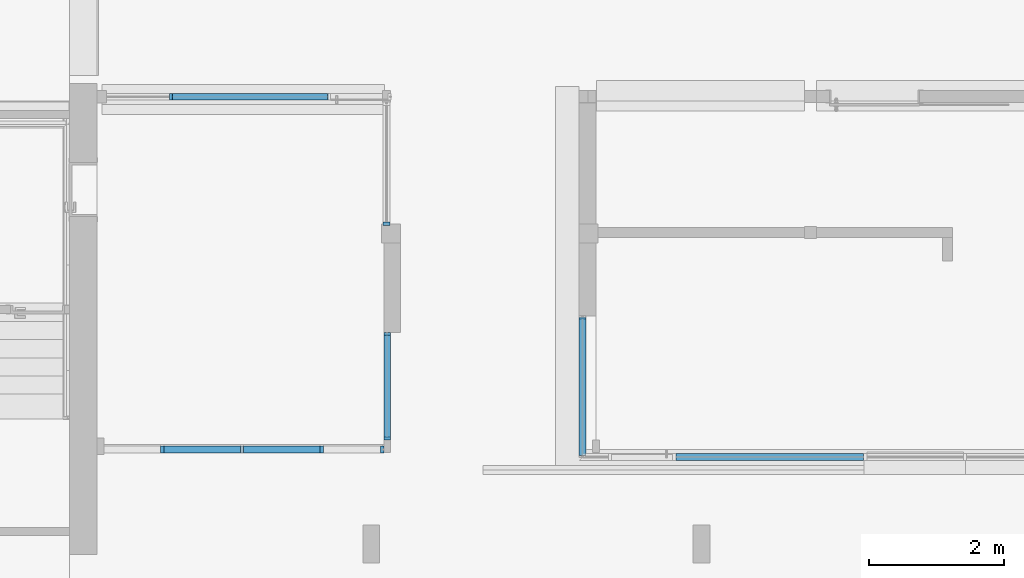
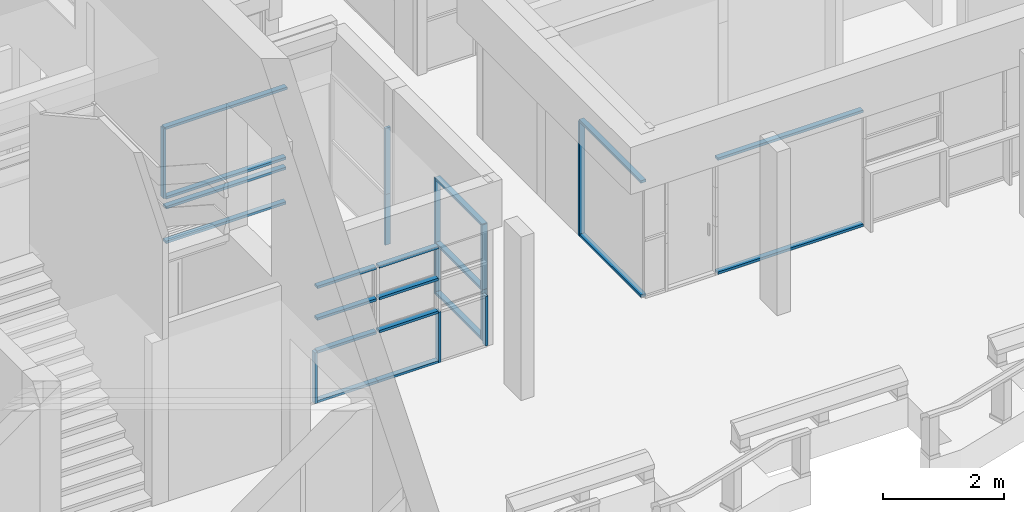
# One storey, part 3 of 117: 30 members, 6 elements without a shape of their own.
"""IFC4 building model written with IfcOpenShell, lengths in metres."""

from ifc_helpers import new_model, entity, si_unit, converted_unit, derived_unit, direction, frame, origin, place, context, subcontext, project, spatial, indexed_curve, outline, extrude, source, transform, mapped, material, type_object, type_shapes, element, aggregate, save


model = new_model("IFC4")

# Units and contexts
model_context = context("Model", 3, precision=1e-05, world=origin(), true_north=direction((6.123031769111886e-17, 1.0)))
body_context = subcontext(model_context, "Body", "Model", "MODEL_VIEW")
ifc_project = project(units=[si_unit("LENGTHUNIT", "METRE"), si_unit("AREAUNIT", "SQUARE_METRE"), si_unit("VOLUMEUNIT", "CUBIC_METRE"), converted_unit("PLANEANGLEUNIT", "DEGREE", entity("IfcRatioMeasure", 0.017453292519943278), si_unit("PLANEANGLEUNIT", "RADIAN"), dimensions=[0, 0, 0, 0, 0, 0, 0]), si_unit("MASSUNIT", "GRAM", prefix="KILO"), derived_unit("MASSDENSITYUNIT", [(si_unit("MASSUNIT", "GRAM", prefix="KILO"), 1), (si_unit("LENGTHUNIT", "METRE"), -3)]), derived_unit("MOMENTOFINERTIAUNIT", [(si_unit("LENGTHUNIT", "METRE"), 4)]), si_unit("TIMEUNIT", "SECOND"), si_unit("FREQUENCYUNIT", "HERTZ"), si_unit("THERMODYNAMICTEMPERATUREUNIT", "DEGREE_CELSIUS"), derived_unit("THERMALTRANSMITTANCEUNIT", [(si_unit("MASSUNIT", "GRAM", prefix="KILO"), 1), (si_unit("THERMODYNAMICTEMPERATUREUNIT", "KELVIN"), -1), (si_unit("TIMEUNIT", "SECOND"), -3)]), derived_unit("VOLUMETRICFLOWRATEUNIT", [(si_unit("LENGTHUNIT", "METRE"), 3), (si_unit("TIMEUNIT", "SECOND"), -1)]), derived_unit("MASSFLOWRATEUNIT", [(si_unit("MASSUNIT", "GRAM", prefix="KILO"), 1), (si_unit("TIMEUNIT", "SECOND"), -1)]), derived_unit("ROTATIONALFREQUENCYUNIT", [(si_unit("TIMEUNIT", "SECOND"), -1)]), si_unit("ELECTRICCURRENTUNIT", "AMPERE"), si_unit("ELECTRICVOLTAGEUNIT", "VOLT"), si_unit("POWERUNIT", "WATT"), si_unit("FORCEUNIT", "NEWTON", prefix="KILO"), si_unit("ILLUMINANCEUNIT", "LUX"), si_unit("LUMINOUSFLUXUNIT", "LUMEN"), si_unit("LUMINOUSINTENSITYUNIT", "CANDELA"), derived_unit("USERDEFINED", [(si_unit("MASSUNIT", "GRAM", prefix="KILO"), -1), (si_unit("LENGTHUNIT", "METRE"), -2), (si_unit("TIMEUNIT", "SECOND"), 3), (si_unit("LUMINOUSFLUXUNIT", "LUMEN"), 1)]), derived_unit("SOUNDPOWERUNIT", [(si_unit("MASSUNIT", "GRAM", prefix="KILO"), 1), (si_unit("LENGTHUNIT", "METRE"), 2), (si_unit("TIMEUNIT", "SECOND"), -3)]), derived_unit("SOUNDPRESSUREUNIT", [(si_unit("MASSUNIT", "GRAM", prefix="KILO"), 1), (si_unit("LENGTHUNIT", "METRE"), -1), (si_unit("TIMEUNIT", "SECOND"), -2)]), derived_unit("LINEARVELOCITYUNIT", [(si_unit("LENGTHUNIT", "METRE"), 1), (si_unit("TIMEUNIT", "SECOND"), -1)]), si_unit("PRESSUREUNIT", "PASCAL"), derived_unit("USERDEFINED", [(si_unit("LENGTHUNIT", "METRE"), -2), (si_unit("MASSUNIT", "GRAM", prefix="KILO"), 1), (si_unit("TIMEUNIT", "SECOND"), -2)]), derived_unit("LINEARFORCEUNIT", [(si_unit("MASSUNIT", "GRAM", prefix="KILO"), 1), (si_unit("LENGTHUNIT", "METRE"), 1), (si_unit("TIMEUNIT", "SECOND"), -2), (si_unit("LENGTHUNIT", "METRE"), -1)]), derived_unit("PLANARFORCEUNIT", [(si_unit("MASSUNIT", "GRAM", prefix="KILO"), 1), (si_unit("LENGTHUNIT", "METRE"), 1), (si_unit("TIMEUNIT", "SECOND"), -2), (si_unit("LENGTHUNIT", "METRE"), -2)])], contexts=[model_context])

# Site, building, storey
site_placement = place(None, origin())
site = spatial("IfcSite", under=ifc_project, at=site_placement, Name="Superficie", CompositionType="ELEMENT")
building_placement = place(site_placement, origin())
building = spatial("IfcBuilding", under=site, at=building_placement, CompositionType="ELEMENT")
storey_placement = place(building_placement, origin())
storey = spatial("IfcBuildingStorey", under=building, at=storey_placement, Name="Nivel 0", CompositionType="ELEMENT", Elevation=0.0)

# Curtain wall, members
curtain_wall_type = type_object("IfcCurtainWallType", Name="Muro cortina:Muro cortina - simple", PredefinedType="NOTDEFINED")
curtain_wall_1_placement = place(storey_placement, origin())
curtain_wall_1 = element("IfcCurtainWall", 1, at=curtain_wall_1_placement, inside=storey, type_object=curtain_wall_type, Name="Muro cortina:Muro cortina - simple", ObjectType="Muro cortina:Muro cortina - simple", PredefinedType="NOTDEFINED")
ifc_material = material(Name="<Unnamed>")
member_type_1 = type_object("IfcMemberType", Name="Montante rectangular:Montante rectangular - 5 x 10 cm", PredefinedType="MULLION", material=ifc_material)
shared_shape_1 = source(origin(), body_context, "Body", "SweptSolid", [
    extrude(outline(indexed_curve([(-0.05, -0.025), (0.05, -0.025), (0.05, 0.025), (-0.05, 0.025), (-0.05, -0.025)], self_intersect=False)), frame((0.0, 0.0, -2.0250000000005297), z_axis=(0.0, 0.0, 1.0), x_axis=(0.0, -1.0, 0.0)), (0.0, 0.0, 1.0), 2.0250000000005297),
])
type_shapes(member_type_1, [shared_shape_1])
member_1_placement = place(curtain_wall_1_placement, frame((-15.448200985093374, -1.7441707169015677, 0.019999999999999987), z_axis=(0.0, -1.0, 0.0), x_axis=(0.0, 0.0, 1.0)))
member_1 = element("IfcMember", 2, at=member_1_placement, type_object=member_type_1, material=ifc_material, Name="Montante rectangular:Montante rectangular - 5 x 10 cm", ObjectType="Montante rectangular:Montante rectangular - 5 x 10 cm", PredefinedType="MULLION", context=body_context, shape_type="MappedRepresentation", body=[
    mapped(shared_shape_1, transform((0.0, 0.0, 0.0), scale=1.0)),
])
member_type_2 = type_object("IfcMemberType", Name="Montante rectangular:Montante rectangular - 5 x 10 cm", PredefinedType="MULLION", material=ifc_material)
shared_shape_2 = source(origin(), body_context, "Body", "SweptSolid", [
    extrude(outline(indexed_curve([(-0.05, -0.025), (0.05, -0.025), (0.05, 0.025), (-0.05, 0.025), (-0.05, -0.025)], self_intersect=False)), frame((-0.025, 0.0, -2.05000000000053), z_axis=(0.0, 0.0, 1.0), x_axis=(0.0, -1.0, 0.0)), (0.0, 0.0, 1.0), 2.05000000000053),
])
type_shapes(member_type_2, [shared_shape_2])
member_2_placement = place(curtain_wall_1_placement, frame((-15.448200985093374, -1.7441707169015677, 2.35), z_axis=(0.0, -1.0, 0.0), x_axis=(0.0, 0.0, 1.0)))
member_2 = element("IfcMember", 3, at=member_2_placement, type_object=member_type_2, material=ifc_material, Name="Montante rectangular:Montante rectangular - 5 x 10 cm", ObjectType="Montante rectangular:Montante rectangular - 5 x 10 cm", PredefinedType="MULLION", context=body_context, shape_type="MappedRepresentation", body=[
    mapped(shared_shape_2, transform((0.0, 0.0, 0.0), scale=1.0)),
])
member_type_3 = type_object("IfcMemberType", Name="Montante rectangular:Montante rectangular - 5 x 10 cm", PredefinedType="MULLION", material=ifc_material)
shared_shape_3 = source(origin(), body_context, "Body", "SweptSolid", [
    extrude(outline(indexed_curve([(-0.05, -0.025), (0.05, -0.025), (0.05, 0.025), (-0.05, 0.025), (-0.05, -0.025)], self_intersect=False)), frame((0.0, 0.0, -2.315), z_axis=(0.0, 0.0, 1.0), x_axis=(0.0, -1.0, 0.0)), (0.0, 0.0, 1.0), 2.315),
])
type_shapes(member_type_3, [shared_shape_3])
member_3_placement = place(curtain_wall_1_placement, frame((-15.44820098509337, 0.30582928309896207, -0.005000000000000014), z_axis=(0.0, 0.0, -1.0), x_axis=(0.0, -1.0, 0.0)))
member_3 = element("IfcMember", 4, at=member_3_placement, type_object=member_type_3, material=ifc_material, Name="Montante rectangular:Montante rectangular - 5 x 10 cm", ObjectType="Montante rectangular:Montante rectangular - 5 x 10 cm", PredefinedType="MULLION", context=body_context, shape_type="MappedRepresentation", body=[
    mapped(shared_shape_3, transform((0.0, 0.0, 0.0), scale=1.0)),
])
aggregate(curtain_wall_1, [member_1, member_2, member_3])

curtain_wall_2_placement = place(storey_placement, origin())
curtain_wall_2 = element("IfcCurtainWall", 5, at=curtain_wall_2_placement, inside=storey, type_object=curtain_wall_type, Name="Muro cortina:Muro cortina - simple", ObjectType="Muro cortina:Muro cortina - simple", PredefinedType="NOTDEFINED")
member_type_4 = type_object("IfcMemberType", Name="Montante rectangular:Montante rectangular - 5 x 10 cm", PredefinedType="MULLION", material=ifc_material)
shared_shape_4 = source(origin(), body_context, "Body", "SweptSolid", [
    extrude(outline(indexed_curve([(-0.05, -0.025), (0.05, -0.025), (0.05, 0.025), (-0.05, 0.025), (-0.05, -0.025)], self_intersect=False)), frame((-0.025, 0.0, -1.0), z_axis=(0.0, 0.0, 1.0), x_axis=(0.0, -1.0, 0.0)), (0.0, 0.0, 1.0), 1.0),
])
type_shapes(member_type_4, [shared_shape_4])
member_4_placement = place(curtain_wall_2_placement, frame((-18.39139536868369, -1.65417071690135, 1.0200000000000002)))
member_4 = element("IfcMember", 6, at=member_4_placement, type_object=member_type_4, material=ifc_material, Name="Montante rectangular:Montante rectangular - 5 x 10 cm", ObjectType="Montante rectangular:Montante rectangular - 5 x 10 cm", PredefinedType="MULLION", context=body_context, shape_type="MappedRepresentation", body=[
    mapped(shared_shape_4, transform((0.0, 0.0, 0.0), scale=1.0)),
])
member_type_5 = type_object("IfcMemberType", Name="Montante rectangular:Montante rectangular - 5 x 10 cm", PredefinedType="MULLION", material=ifc_material)
shared_shape_5 = source(origin(), body_context, "Body", "SweptSolid", [
    extrude(outline(indexed_curve([(-0.05, -0.025), (0.05, -0.025), (0.05, 0.025), (-0.05, 0.025), (-0.05, -0.025)], self_intersect=False)), frame((-0.025, 0.0, -1.1300000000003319), z_axis=(0.0, 0.0, 1.0), x_axis=(0.0, -1.0, 0.0)), (0.0, 0.0, 1.0), 1.1300000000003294),
])
type_shapes(member_type_5, [shared_shape_5])
member_5_placement = place(curtain_wall_2_placement, frame((-21.64820098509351, -1.6541707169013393, 2.35), z_axis=(-1.0, 0.0, 0.0), x_axis=(0.0, 0.0, 1.0)))
member_5 = element("IfcMember", 7, at=member_5_placement, type_object=member_type_5, material=ifc_material, Name="Montante rectangular:Montante rectangular - 5 x 10 cm", ObjectType="Montante rectangular:Montante rectangular - 5 x 10 cm", PredefinedType="MULLION", context=body_context, shape_type="MappedRepresentation", body=[
    mapped(shared_shape_5, transform((0.0, 0.0, 0.0), scale=1.0)),
])
member_6_placement = place(curtain_wall_2_placement, frame((-20.46820098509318, -1.654170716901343, 2.35), z_axis=(-1.0, 0.0, 0.0), x_axis=(0.0, 0.0, 1.0)))
member_6 = element("IfcMember", 8, at=member_6_placement, type_object=member_type_5, material=ifc_material, Name="Montante rectangular:Montante rectangular - 5 x 10 cm", ObjectType="Montante rectangular:Montante rectangular - 5 x 10 cm", PredefinedType="MULLION", context=body_context, shape_type="MappedRepresentation", body=[
    mapped(shared_shape_5, transform((0.0, 0.0, 0.0), scale=1.0)),
])
member_type_6 = type_object("IfcMemberType", Name="Montante rectangular:Montante rectangular - 5 x 10 cm", PredefinedType="MULLION", material=ifc_material)
shared_shape_6 = source(origin(), body_context, "Body", "SweptSolid", [
    extrude(outline(indexed_curve([(-0.05, -0.025), (0.05, -0.025), (0.05, 0.025), (-0.05, 0.025), (-0.05, -0.025)], self_intersect=False)), frame((0.0, 0.0, -1.1550000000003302), z_axis=(0.0, 0.0, 1.0), x_axis=(0.0, -1.0, 0.0)), (0.0, 0.0, 1.0), 1.1550000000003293),
])
type_shapes(member_type_6, [shared_shape_6])
member_7_placement = place(curtain_wall_2_placement, frame((-20.49320098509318, -1.654170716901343, 0.019999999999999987), z_axis=(-1.0, 0.0, 0.0), x_axis=(0.0, 0.0, 1.0)))
member_7 = element("IfcMember", 9, at=member_7_placement, type_object=member_type_6, material=ifc_material, Name="Montante rectangular:Montante rectangular - 5 x 10 cm", ObjectType="Montante rectangular:Montante rectangular - 5 x 10 cm", PredefinedType="MULLION", context=body_context, shape_type="MappedRepresentation", body=[
    mapped(shared_shape_6, transform((0.0, 0.0, 0.0), scale=1.0)),
])
member_type_7 = type_object("IfcMemberType", Name="Montante rectangular:Montante rectangular - 5 x 10 cm", PredefinedType="MULLION", material=ifc_material)
shared_shape_7 = source(origin(), body_context, "Body", "SweptSolid", [
    extrude(outline(indexed_curve([(-0.05, -0.025), (0.05, -0.025), (0.05, 0.025), (-0.05, 0.025), (-0.05, -0.025)], self_intersect=False)), frame((0.0, 0.0, -1.1300000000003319), z_axis=(0.0, 0.0, 1.0), x_axis=(0.0, -1.0, 0.0)), (0.0, 0.0, 1.0), 1.1300000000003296),
])
type_shapes(member_type_7, [shared_shape_7])
member_8_placement = place(curtain_wall_2_placement, frame((-20.46820098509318, -1.654170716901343, 1.0200000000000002), z_axis=(-1.0, 0.0, 0.0), x_axis=(0.0, 0.0, 1.0)))
member_8 = element("IfcMember", 10, at=member_8_placement, type_object=member_type_7, material=ifc_material, Name="Montante rectangular:Montante rectangular - 5 x 10 cm", ObjectType="Montante rectangular:Montante rectangular - 5 x 10 cm", PredefinedType="MULLION", context=body_context, shape_type="MappedRepresentation", body=[
    mapped(shared_shape_7, transform((0.0, 0.0, 0.0), scale=1.0)),
])
member_9_placement = place(curtain_wall_2_placement, frame((-20.46820098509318, -1.654170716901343, 1.685), z_axis=(-1.0, 0.0, 0.0), x_axis=(0.0, 0.0, 1.0)))
member_9 = element("IfcMember", 11, at=member_9_placement, type_object=member_type_7, material=ifc_material, Name="Montante rectangular:Montante rectangular - 5 x 10 cm", ObjectType="Montante rectangular:Montante rectangular - 5 x 10 cm", PredefinedType="MULLION", context=body_context, shape_type="MappedRepresentation", body=[
    mapped(shared_shape_7, transform((0.0, 0.0, 0.0), scale=1.0)),
])
member_10_placement = place(curtain_wall_2_placement, frame((-21.64820098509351, -1.6541707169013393, 1.0200000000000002), z_axis=(-1.0, 0.0, 0.0), x_axis=(0.0, 0.0, 1.0)))
member_10 = element("IfcMember", 12, at=member_10_placement, type_object=member_type_7, material=ifc_material, Name="Montante rectangular:Montante rectangular - 5 x 10 cm", ObjectType="Montante rectangular:Montante rectangular - 5 x 10 cm", PredefinedType="MULLION", context=body_context, shape_type="MappedRepresentation", body=[
    mapped(shared_shape_7, transform((0.0, 0.0, 0.0), scale=1.0)),
])
member_11_placement = place(curtain_wall_2_placement, frame((-21.64820098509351, -1.6541707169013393, 1.685), z_axis=(-1.0, 0.0, 0.0), x_axis=(0.0, 0.0, 1.0)))
member_11 = element("IfcMember", 13, at=member_11_placement, type_object=member_type_7, material=ifc_material, Name="Montante rectangular:Montante rectangular - 5 x 10 cm", ObjectType="Montante rectangular:Montante rectangular - 5 x 10 cm", PredefinedType="MULLION", context=body_context, shape_type="MappedRepresentation", body=[
    mapped(shared_shape_7, transform((0.0, 0.0, 0.0), scale=1.0)),
])
member_type_8 = type_object("IfcMemberType", Name="Montante rectangular:Montante rectangular - 5 x 10 cm", PredefinedType="MULLION", material=ifc_material)
shared_shape_8 = source(origin(), body_context, "Body", "SweptSolid", [
    extrude(outline(indexed_curve([(-0.05, -0.025), (0.05, -0.025), (0.05, 0.025), (-0.05, 0.025), (-0.05, -0.025)], self_intersect=False)), frame((0.0, 0.0, -1.0250000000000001), z_axis=(0.0, 0.0, 1.0), x_axis=(0.0, -1.0, 0.0)), (0.0, 0.0, 1.0), 1.0250000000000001),
])
type_shapes(member_type_8, [shared_shape_8])
member_12_placement = place(curtain_wall_2_placement, frame((-21.67320098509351, -1.6541707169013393, -0.005000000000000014), z_axis=(0.0, 0.0, -1.0), x_axis=(-1.0, 0.0, 0.0)))
member_12 = element("IfcMember", 14, at=member_12_placement, type_object=member_type_8, material=ifc_material, Name="Montante rectangular:Montante rectangular - 5 x 10 cm", ObjectType="Montante rectangular:Montante rectangular - 5 x 10 cm", PredefinedType="MULLION", context=body_context, shape_type="MappedRepresentation", body=[
    mapped(shared_shape_8, transform((0.0, 0.0, 0.0), scale=1.0)),
])
member_13_placement = place(curtain_wall_2_placement, frame((-19.31320098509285, -1.6541707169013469, -0.005000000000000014), z_axis=(0.0, 0.0, -1.0), x_axis=(-1.0, 0.0, 0.0)))
member_13 = element("IfcMember", 15, at=member_13_placement, type_object=member_type_8, material=ifc_material, Name="Montante rectangular:Montante rectangular - 5 x 10 cm", ObjectType="Montante rectangular:Montante rectangular - 5 x 10 cm", PredefinedType="MULLION", context=body_context, shape_type="MappedRepresentation", body=[
    mapped(shared_shape_8, transform((0.0, 0.0, 0.0), scale=1.0)),
])

# Curtain wall, member
curtain_wall_3_placement = place(storey_placement, origin())
curtain_wall_3 = element("IfcCurtainWall", 16, at=curtain_wall_3_placement, inside=storey, type_object=curtain_wall_type, Name="Muro cortina:Muro cortina - simple", ObjectType="Muro cortina:Muro cortina - simple", PredefinedType="NOTDEFINED")
member_14_placement = place(curtain_wall_3_placement, frame((-18.34320098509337, 0.0571120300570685, -0.005000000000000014), z_axis=(0.0, 0.0, -1.0), x_axis=(0.0, 1.0, 0.0)))
member_14 = element("IfcMember", 17, at=member_14_placement, type_object=member_type_8, material=ifc_material, Name="Montante rectangular:Montante rectangular - 5 x 10 cm", ObjectType="Montante rectangular:Montante rectangular - 5 x 10 cm", PredefinedType="MULLION", context=body_context, shape_type="MappedRepresentation", body=[
    mapped(shared_shape_8, transform((0.0, 0.0, 0.0), scale=1.0)),
])

curtain_wall_4_placement = place(storey_placement, origin())
curtain_wall_4 = element("IfcCurtainWall", 18, at=curtain_wall_4_placement, inside=storey, type_object=curtain_wall_type, Name="Muro cortina:Muro cortina - simple", ObjectType="Muro cortina:Muro cortina - simple", PredefinedType="NOTDEFINED")
member_15_placement = place(curtain_wall_4_placement, frame((-18.353200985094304, 1.6928457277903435, -0.004999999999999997), z_axis=(0.0, 0.0, -1.0), x_axis=(0.0, -1.0, 0.0)))
member_15 = element("IfcMember", 19, at=member_15_placement, type_object=member_type_8, material=ifc_material, Name="Montante rectangular:Montante rectangular - 5 x 10 cm", ObjectType="Montante rectangular:Montante rectangular - 5 x 10 cm", PredefinedType="MULLION", context=body_context, shape_type="MappedRepresentation", body=[
    mapped(shared_shape_8, transform((0.0, 0.0, 0.0), scale=1.0)),
])

# Member
member_type_9 = type_object("IfcMemberType", Name="Montante rectangular:Montante rectangular - 5 x 10 cm", PredefinedType="MULLION", material=ifc_material)
shared_shape_9 = source(origin(), body_context, "Body", "SweptSolid", [
    extrude(outline(indexed_curve([(-0.05, -0.025), (0.05, -0.025), (0.05, 0.025), (-0.05, 0.025), (-0.05, -0.025)], self_intersect=False)), frame((0.0, 0.0, -1.1550000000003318), z_axis=(0.0, 0.0, 1.0), x_axis=(0.0, -1.0, 0.0)), (0.0, 0.0, 1.0), 1.1550000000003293),
])
type_shapes(member_type_9, [shared_shape_9])
member_16_placement = place(curtain_wall_2_placement, frame((-21.64820098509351, -1.6541707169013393, 0.019999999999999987), z_axis=(-1.0, 0.0, 0.0), x_axis=(0.0, 0.0, 1.0)))
member_16 = element("IfcMember", 20, at=member_16_placement, type_object=member_type_9, material=ifc_material, Name="Montante rectangular:Montante rectangular - 5 x 10 cm", ObjectType="Montante rectangular:Montante rectangular - 5 x 10 cm", PredefinedType="MULLION", context=body_context, shape_type="MappedRepresentation", body=[
    mapped(shared_shape_9, transform((0.0, 0.0, 0.0), scale=1.0)),
])

aggregate(curtain_wall_2, [member_4, member_5, member_7, member_8, member_12, member_13, member_9, member_6, member_16, member_10, member_11])

member_type_10 = type_object("IfcMemberType", Name="Montante rectangular:Montante rectangular - 5 x 10 cm", PredefinedType="MULLION", material=ifc_material)
shared_shape_10 = source(origin(), body_context, "Body", "SweptSolid", [
    extrude(outline(indexed_curve([(-0.05, -0.025), (0.05, -0.025), (0.05, 0.025), (-0.05, 0.025), (-0.05, -0.025)], self_intersect=False)), frame((-0.025, 0.0, -1.5712827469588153), z_axis=(0.0, 0.0, 1.0), x_axis=(0.0, -1.0, 0.0)), (0.0, 0.0, 1.0), 1.5712827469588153),
])
type_shapes(member_type_10, [shared_shape_10])
member_17_placement = place(curtain_wall_3_placement, frame((-18.34320098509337, 0.0571120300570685, 2.3499999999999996), z_axis=(0.0, 1.0, 0.0), x_axis=(0.0, 0.0, 1.0)))
member_17 = element("IfcMember", 21, at=member_17_placement, type_object=member_type_10, material=ifc_material, Name="Montante rectangular:Montante rectangular - 5 x 10 cm", ObjectType="Montante rectangular:Montante rectangular - 5 x 10 cm", PredefinedType="MULLION", context=body_context, shape_type="MappedRepresentation", body=[
    mapped(shared_shape_10, transform((0.0, 0.0, 0.0), scale=1.0)),
])

member_type_11 = type_object("IfcMemberType", Name="Montante rectangular:Montante rectangular - 5 x 10 cm", PredefinedType="MULLION", material=ifc_material)
shared_shape_11 = source(origin(), body_context, "Body", "SweptSolid", [
    extrude(outline(indexed_curve([(-0.05, -0.025), (0.05, -0.025), (0.05, 0.025), (-0.05, 0.025), (-0.05, -0.025)], self_intersect=False)), frame((-0.025, 0.0, -1.31), z_axis=(0.0, 0.0, 1.0), x_axis=(0.0, -1.0, 0.0)), (0.0, 0.0, 1.0), 1.31),
])
type_shapes(member_type_11, [shared_shape_11])
member_18_placement = place(curtain_wall_3_placement, frame((-18.343200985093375, -1.514170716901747, 2.33), z_axis=(0.0, 0.0, 1.0), x_axis=(0.0, -1.0, 0.0)))
member_18 = element("IfcMember", 22, at=member_18_placement, type_object=member_type_11, material=ifc_material, Name="Montante rectangular:Montante rectangular - 5 x 10 cm", ObjectType="Montante rectangular:Montante rectangular - 5 x 10 cm", PredefinedType="MULLION", context=body_context, shape_type="MappedRepresentation", body=[
    mapped(shared_shape_11, transform((0.0, 0.0, 0.0), scale=1.0)),
])

member_type_12 = type_object("IfcMemberType", Name="Montante rectangular:Montante rectangular - 5 x 10 cm", PredefinedType="MULLION", material=ifc_material)
shared_shape_12 = source(origin(), body_context, "Body", "SweptSolid", [
    extrude(outline(indexed_curve([(-0.05, -0.025), (0.05, -0.025), (0.05, 0.025), (-0.05, 0.025), (-0.05, -0.025)], self_intersect=False)), frame((-0.025, 0.0, -1.0250000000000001), z_axis=(0.0, 0.0, 1.0), x_axis=(0.0, -1.0, 0.0)), (0.0, 0.0, 1.0), 1.0250000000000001),
])
type_shapes(member_type_12, [shared_shape_12])
member_19_placement = place(curtain_wall_3_placement, frame((-18.343200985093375, -1.514170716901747, 1.0200000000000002), z_axis=(0.0, 0.0, 1.0), x_axis=(0.0, -1.0, 0.0)))
member_19 = element("IfcMember", 23, at=member_19_placement, type_object=member_type_12, material=ifc_material, Name="Montante rectangular:Montante rectangular - 5 x 10 cm", ObjectType="Montante rectangular:Montante rectangular - 5 x 10 cm", PredefinedType="MULLION", context=body_context, shape_type="MappedRepresentation", body=[
    mapped(shared_shape_12, transform((0.0, 0.0, 0.0), scale=1.0)),
])

member_type_13 = type_object("IfcMemberType", Name="Montante rectangular:Montante rectangular - 5 x 10 cm", PredefinedType="MULLION", material=ifc_material)
shared_shape_13 = source(origin(), body_context, "Body", "SweptSolid", [
    extrude(outline(indexed_curve([(-0.05, -0.025), (0.05, -0.025), (0.05, 0.025), (-0.05, 0.025), (-0.05, -0.025)], self_intersect=False)), frame((0.0, 0.0, -1.3099999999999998), z_axis=(0.0, 0.0, 1.0), x_axis=(0.0, -1.0, 0.0)), (0.0, 0.0, 1.0), 1.3099999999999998),
])
type_shapes(member_type_13, [shared_shape_13])
member_20_placement = place(curtain_wall_3_placement, frame((-18.34320098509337, 0.0571120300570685, 1.0200000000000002), z_axis=(0.0, 0.0, -1.0), x_axis=(0.0, 1.0, 0.0)))
member_20 = element("IfcMember", 24, at=member_20_placement, type_object=member_type_13, material=ifc_material, Name="Montante rectangular:Montante rectangular - 5 x 10 cm", ObjectType="Montante rectangular:Montante rectangular - 5 x 10 cm", PredefinedType="MULLION", context=body_context, shape_type="MappedRepresentation", body=[
    mapped(shared_shape_13, transform((0.0, 0.0, 0.0), scale=1.0)),
])

member_type_14 = type_object("IfcMemberType", Name="Montante rectangular:Montante rectangular - 5 x 10 cm", PredefinedType="MULLION", material=ifc_material)
shared_shape_14 = source(origin(), body_context, "Body", "SweptSolid", [
    extrude(outline(indexed_curve([(-0.05, -0.025), (0.05, -0.025), (0.05, 0.025), (-0.05, 0.025), (-0.05, -0.025)], self_intersect=False)), frame((0.0, 0.0, -1.496282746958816), z_axis=(0.0, 0.0, 1.0), x_axis=(0.0, -1.0, 0.0)), (0.0, 0.0, 1.0), 1.496282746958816),
])
type_shapes(member_type_14, [shared_shape_14])
member_21_placement = place(curtain_wall_3_placement, frame((-18.34320098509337, 0.03211203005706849, 1.0200000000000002), z_axis=(0.0, 1.0, 0.0), x_axis=(0.0, 0.0, 1.0)))
member_21 = element("IfcMember", 25, at=member_21_placement, type_object=member_type_14, material=ifc_material, Name="Montante rectangular:Montante rectangular - 5 x 10 cm", ObjectType="Montante rectangular:Montante rectangular - 5 x 10 cm", PredefinedType="MULLION", context=body_context, shape_type="MappedRepresentation", body=[
    mapped(shared_shape_14, transform((0.0, 0.0, 0.0), scale=1.0)),
])

member_22_placement = place(curtain_wall_3_placement, frame((-18.34320098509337, 0.03211203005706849, 0.019999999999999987), z_axis=(0.0, 1.0, 0.0), x_axis=(0.0, 0.0, 1.0)))
member_22 = element("IfcMember", 26, at=member_22_placement, type_object=member_type_14, material=ifc_material, Name="Montante rectangular:Montante rectangular - 5 x 10 cm", ObjectType="Montante rectangular:Montante rectangular - 5 x 10 cm", PredefinedType="MULLION", context=body_context, shape_type="MappedRepresentation", body=[
    mapped(shared_shape_14, transform((0.0, 0.0, 0.0), scale=1.0)),
])

aggregate(curtain_wall_3, [member_17, member_18, member_14, member_19, member_20, member_21, member_22])

member_type_15 = type_object("IfcMemberType", Name="Montante rectangular:Montante rectangular - 5 x 10 cm", PredefinedType="MULLION", material=ifc_material)
shared_shape_15 = source(origin(), body_context, "Body", "SweptSolid", [
    extrude(outline(indexed_curve([(-0.05, -0.025), (0.05, -0.025), (0.05, 0.025), (-0.05, 0.025), (-0.05, -0.025)], self_intersect=False)), frame((0.0, 0.0, -1.3350000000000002), z_axis=(0.0, 0.0, 1.0), x_axis=(0.0, -1.0, 0.0)), (0.0, 0.0, 1.0), 1.3350000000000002),
])
type_shapes(member_type_15, [shared_shape_15])
member_23_placement = place(curtain_wall_4_placement, frame((-18.353200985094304, 1.6928457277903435, 1.02), z_axis=(0.0, 0.0, -1.0), x_axis=(0.0, -1.0, 0.0)))
member_23 = element("IfcMember", 27, at=member_23_placement, type_object=member_type_15, material=ifc_material, Name="Montante rectangular:Montante rectangular - 5 x 10 cm", ObjectType="Montante rectangular:Montante rectangular - 5 x 10 cm", PredefinedType="MULLION", context=body_context, shape_type="MappedRepresentation", body=[
    mapped(shared_shape_15, transform((0.0, 0.0, 0.0), scale=1.0)),
])

aggregate(curtain_wall_4, [member_15, member_23])

# Curtain wall, members
curtain_wall_5_placement = place(storey_placement, origin())
curtain_wall_5 = element("IfcCurtainWall", 28, at=curtain_wall_5_placement, inside=storey, type_object=curtain_wall_type, Name="Muro cortina:Muro cortina - simple", ObjectType="Muro cortina:Muro cortina - simple", PredefinedType="NOTDEFINED")
member_type_16 = type_object("IfcMemberType", Name="Montante rectangular:Montante rectangular - 5 x 10 cm", PredefinedType="MULLION", material=ifc_material)
shared_shape_16 = source(origin(), body_context, "Body", "SweptSolid", [
    extrude(outline(indexed_curve([(-0.05, -0.025), (0.05, -0.025), (0.05, 0.025), (-0.05, 0.025), (-0.05, -0.025)], self_intersect=False)), frame((0.0, 0.0, -2.289999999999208), z_axis=(0.0, 0.0, 1.0), x_axis=(0.0, -1.0, 0.0)), (0.0, 0.0, 1.0), 2.2899999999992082),
])
type_shapes(member_type_16, [shared_shape_16])
member_24_placement = place(curtain_wall_5_placement, frame((-21.518200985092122, 3.570829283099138, 0.92), z_axis=(-1.0, 0.0, 0.0), x_axis=(0.0, 0.0, 1.0)))
member_24 = element("IfcMember", 29, at=member_24_placement, type_object=member_type_16, material=ifc_material, Name="Montante rectangular:Montante rectangular - 5 x 10 cm", ObjectType="Montante rectangular:Montante rectangular - 5 x 10 cm", PredefinedType="MULLION", context=body_context, shape_type="MappedRepresentation", body=[
    mapped(shared_shape_16, transform((0.0, 0.0, 0.0), scale=1.0)),
])
member_25_placement = place(curtain_wall_5_placement, frame((-21.518200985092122, 3.570829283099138, 0.7199999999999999), z_axis=(-1.0, 0.0, 0.0), x_axis=(0.0, 0.0, 1.0)))
member_25 = element("IfcMember", 30, at=member_25_placement, type_object=member_type_16, material=ifc_material, Name="Montante rectangular:Montante rectangular - 5 x 10 cm", ObjectType="Montante rectangular:Montante rectangular - 5 x 10 cm", PredefinedType="MULLION", context=body_context, shape_type="MappedRepresentation", body=[
    mapped(shared_shape_16, transform((0.0, 0.0, 0.0), scale=1.0)),
])
member_26_placement = place(curtain_wall_5_placement, frame((-21.518200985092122, 3.570829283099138, 0.020000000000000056), z_axis=(-1.0, 0.0, 0.0), x_axis=(0.0, 0.0, 1.0)))
member_26 = element("IfcMember", 31, at=member_26_placement, type_object=member_type_16, material=ifc_material, Name="Montante rectangular:Montante rectangular - 5 x 10 cm", ObjectType="Montante rectangular:Montante rectangular - 5 x 10 cm", PredefinedType="MULLION", context=body_context, shape_type="MappedRepresentation", body=[
    mapped(shared_shape_16, transform((0.0, 0.0, 0.0), scale=1.0)),
])
member_type_17 = type_object("IfcMemberType", Name="Montante rectangular:Montante rectangular - 5 x 10 cm", PredefinedType="MULLION", material=ifc_material)
shared_shape_17 = source(origin(), body_context, "Body", "SweptSolid", [
    extrude(outline(indexed_curve([(-0.05, -0.025), (0.05, -0.025), (0.05, 0.025), (-0.05, 0.025), (-0.05, -0.025)], self_intersect=False)), frame((0.0, 0.0, -1.4099999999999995), z_axis=(0.0, 0.0, 1.0), x_axis=(0.0, -1.0, 0.0)), (0.0, 0.0, 1.0), 1.4099999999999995),
])
type_shapes(member_type_17, [shared_shape_17])
member_27_placement = place(curtain_wall_5_placement, frame((-21.54320098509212, 3.570829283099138, 0.92), z_axis=(0.0, 0.0, -1.0), x_axis=(-1.0, 0.0, 0.0)))
member_27 = element("IfcMember", 32, at=member_27_placement, type_object=member_type_17, material=ifc_material, Name="Montante rectangular:Montante rectangular - 5 x 10 cm", ObjectType="Montante rectangular:Montante rectangular - 5 x 10 cm", PredefinedType="MULLION", context=body_context, shape_type="MappedRepresentation", body=[
    mapped(shared_shape_17, transform((0.0, 0.0, 0.0), scale=1.0)),
])
member_type_18 = type_object("IfcMemberType", Name="Montante rectangular:Montante rectangular - 5 x 10 cm", PredefinedType="MULLION", material=ifc_material)
shared_shape_18 = source(origin(), body_context, "Body", "SweptSolid", [
    extrude(outline(indexed_curve([(-0.05, -0.025), (0.05, -0.025), (0.05, 0.025), (-0.05, 0.025), (-0.05, -0.025)], self_intersect=False)), frame((-0.025, 0.0, -2.339999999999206), z_axis=(0.0, 0.0, 1.0), x_axis=(0.0, -1.0, 0.0)), (0.0, 0.0, 1.0), 2.339999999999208),
])
type_shapes(member_type_18, [shared_shape_18])
member_28_placement = place(curtain_wall_5_placement, frame((-21.54320098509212, 3.570829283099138, 2.35), z_axis=(-1.0, 0.0, 0.0), x_axis=(0.0, 0.0, 1.0)))
member_28 = element("IfcMember", 33, at=member_28_placement, type_object=member_type_18, material=ifc_material, Name="Montante rectangular:Montante rectangular - 5 x 10 cm", ObjectType="Montante rectangular:Montante rectangular - 5 x 10 cm", PredefinedType="MULLION", context=body_context, shape_type="MappedRepresentation", body=[
    mapped(shared_shape_18, transform((0.0, 0.0, 0.0), scale=1.0)),
])
aggregate(curtain_wall_5, [member_24, member_25, member_27, member_26, member_28])

curtain_wall_6_placement = place(storey_placement, origin())
curtain_wall_6 = element("IfcCurtainWall", 34, at=curtain_wall_6_placement, inside=storey, type_object=curtain_wall_type, Name="Muro cortina:Muro cortina - simple", ObjectType="Muro cortina:Muro cortina - simple", PredefinedType="NOTDEFINED")
member_type_19 = type_object("IfcMemberType", Name="Montante rectangular:Montante rectangular - 5 x 10 cm", PredefinedType="MULLION", material=ifc_material)
shared_shape_19 = source(origin(), body_context, "Body", "SweptSolid", [
    extrude(outline(indexed_curve([(-0.05, -0.025), (0.05, -0.025), (0.05, 0.025), (-0.05, 0.025), (-0.05, -0.025)], self_intersect=False)), frame((-0.025, 0.0, -2.7784348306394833), z_axis=(0.0, 0.0, 1.0), x_axis=(0.0, -1.0, 0.0)), (0.0, 0.0, 1.0), 2.7784348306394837),
])
type_shapes(member_type_19, [shared_shape_19])
member_29_placement = place(curtain_wall_6_placement, frame((-11.289766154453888, -1.7641707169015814, 2.35), z_axis=(1.0, 0.0, 0.0), x_axis=(0.0, 0.0, 1.0)))
member_29 = element("IfcMember", 35, at=member_29_placement, type_object=member_type_19, material=ifc_material, Name="Montante rectangular:Montante rectangular - 5 x 10 cm", ObjectType="Montante rectangular:Montante rectangular - 5 x 10 cm", PredefinedType="MULLION", context=body_context, shape_type="MappedRepresentation", body=[
    mapped(shared_shape_19, transform((0.0, 0.0, 0.0), scale=1.0)),
])
member_type_20 = type_object("IfcMemberType", Name="Montante rectangular:Montante rectangular - 5 x 10 cm", PredefinedType="MULLION", material=ifc_material)
shared_shape_20 = source(origin(), body_context, "Body", "SweptSolid", [
    extrude(outline(indexed_curve([(-0.05, -0.025), (0.05, -0.025), (0.05, 0.025), (-0.05, 0.025), (-0.05, -0.025)], self_intersect=False)), frame((-0.025, 0.0, -2.7784348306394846), z_axis=(0.0, 0.0, 1.0), x_axis=(0.0, -1.0, 0.0)), (0.0, 0.0, 1.0), 2.778434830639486),
])
type_shapes(member_type_20, [shared_shape_20])
member_30_placement = place(curtain_wall_6_placement, frame((-14.068200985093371, -1.7641707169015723, 0.0), z_axis=(-1.0, 0.0, 0.0), x_axis=(0.0, 0.0, -1.0)))
member_30 = element("IfcMember", 36, at=member_30_placement, type_object=member_type_20, material=ifc_material, Name="Montante rectangular:Montante rectangular - 5 x 10 cm", ObjectType="Montante rectangular:Montante rectangular - 5 x 10 cm", PredefinedType="MULLION", context=body_context, shape_type="MappedRepresentation", body=[
    mapped(shared_shape_20, transform((0.0, 0.0, 0.0), scale=1.0)),
])
aggregate(curtain_wall_6, [member_29, member_30])

save(model, "model.ifc")
